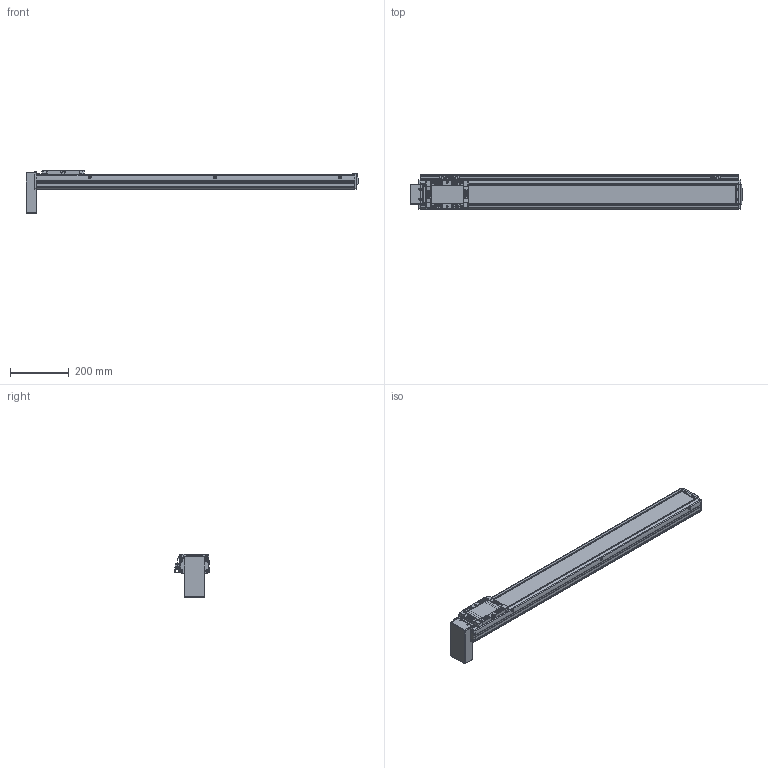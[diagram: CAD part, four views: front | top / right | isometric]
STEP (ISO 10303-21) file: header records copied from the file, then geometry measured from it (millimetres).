
FILE_DESCRIPTION(('STEP AP214'),'1');
FILE_NAME('Z:/Web/3D/SAN100/SAN100 양산용 (STEP)/SAN100ㅁㅁ-900PB+3SL.stp','2013-04-30T04:45:55',(' '),(' '),'Spatial InterOp 3D',' ',' ');
FILE_SCHEMA(('automotive_design'));
Length unit declared in the file: millimetre
Products named in the file (57): SGD-SAN100; M3.0 x 6.0; SRL-16x17-380L; EE-SX674; SBK-SX674-352; 스크루 : Round - M3.0 x 6.0; BTCV-SAN100; 스크루 : Round - M4.0 x 10.0; FRCV-SAN100; SUS COVER; SFX-SAN100; RRCV-SAN100; FRBL-SAN100; SLBL-SAN100; SLCV-SAN100; 스크루 : Countersunk - M3.0 x 6.0; BASE; 스크루 : Round - M5.0 x 6.0
Bounding box: 1126.5 x 116 x 148.36 mm (x, y, z)
Volume: 3338207.4 mm3; surface area: 868353.4 mm2
Topology: 57 solids, 62 shells, 2657 faces, 6896 edges, 4457 vertices
Faces by surface type: plane 1398, cylinder 907, cone 234, sphere 76, torus 30, bspline 12
Entity records: 104490 total; most frequent: CARTESIAN_POINT 15445, DIRECTION 14601, ORIENTED_EDGE 13588, EDGE_CURVE 6794, AXIS2_PLACEMENT_3D 5226, VERTEX_POINT 4457, LINE 4149, VECTOR 4149
